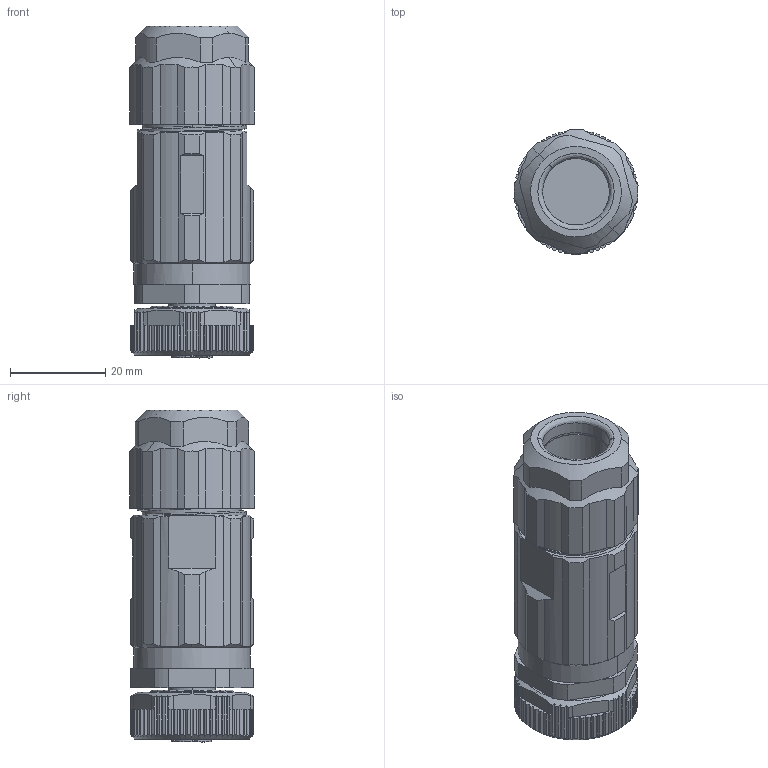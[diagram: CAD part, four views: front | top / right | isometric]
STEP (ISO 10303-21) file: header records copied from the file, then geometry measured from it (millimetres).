
FILE_DESCRIPTION (( 'STEP AP203' ), '1' );
FILE_NAME ('64L001 杅耀.STEP', '2022-01-06T05:37:30', ( '' ), ( '' ), 'SwSTEP 2.0', 'SolidWorks 2016', '' );
FILE_SCHEMA (( 'CONFIG_CONTROL_DESIGN' ));
Length unit declared in the file: millimetre
Products named in the file (1): 64L001 杅耀
Bounding box: 26.02 x 26.02 x 69.67 mm (x, y, z)
Volume: 28570.4 mm3; surface area: 12696.7 mm2
Topology: 2 solids, 2 shells, 689 faces, 1966 edges, 1293 vertices
Faces by surface type: plane 370, cylinder 206, cone 60, bspline 53
Entity records: 35126 total; most frequent: CARTESIAN_POINT 18288, ORIENTED_EDGE 3912, DIRECTION 2989, EDGE_CURVE 1956, VERTEX_POINT 1293, AXIS2_PLACEMENT_3D 1085, LINE 819, VECTOR 819
